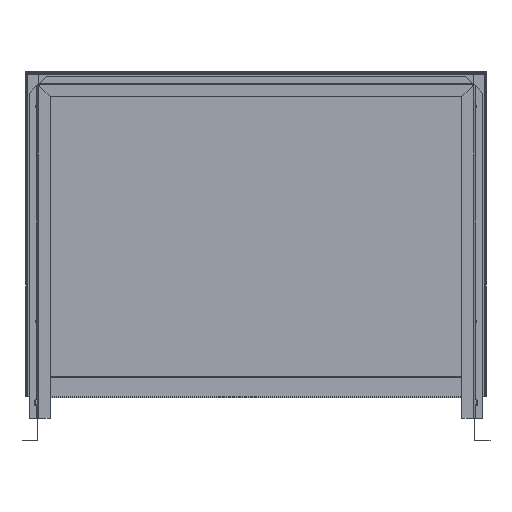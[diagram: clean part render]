
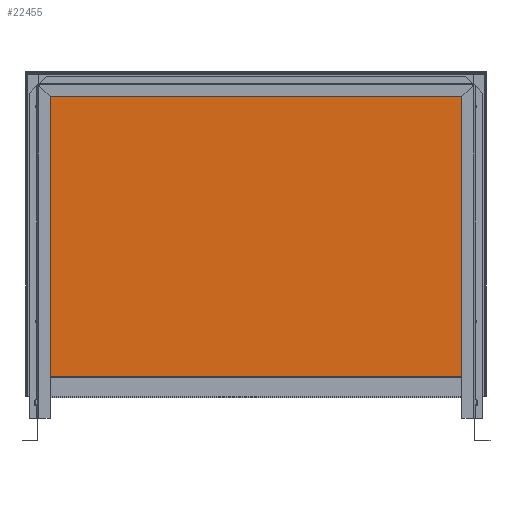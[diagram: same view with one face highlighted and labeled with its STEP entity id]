
A CAD part, front view. The second image highlights one B-rep face of the part: STEP entity #22455.
In plain terms, the highlighted planar face has unit normal (0, -1, 0).
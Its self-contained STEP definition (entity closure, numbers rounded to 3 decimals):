
#16622=CARTESIAN_POINT('',(422.271,0.8,647.2));
#16623=VERTEX_POINT('',#16622);
#16630=CARTESIAN_POINT('',(400.,0.8,624.929));
#16631=VERTEX_POINT('',#16630);
#16632=CARTESIAN_POINT('',(422.271,0.8,647.2));
#16633=DIRECTION('',(-0.707,0.,-0.707));
#16634=VECTOR('',#16633,31.496);
#16635=LINE('',#16632,#16634);
#16636=EDGE_CURVE('',#16623,#16631,#16635,.T.);
#16687=CARTESIAN_POINT('',(400.,0.8,81.8));
#16688=VERTEX_POINT('',#16687);
#16821=CARTESIAN_POINT('',(400.,0.8,81.8));
#16822=DIRECTION('',(-0.,0.,1.));
#16823=VECTOR('',#16822,543.129);
#16824=LINE('',#16821,#16823);
#16825=EDGE_CURVE('',#16688,#16631,#16824,.T.);
#17457=CARTESIAN_POINT('',(399.929,0.8,625.));
#17458=VERTEX_POINT('',#17457);
#17465=CARTESIAN_POINT('',(422.129,0.8,647.2));
#17466=VERTEX_POINT('',#17465);
#17467=CARTESIAN_POINT('',(399.929,0.8,625.));
#17468=DIRECTION('',(0.707,-0.,0.707));
#17469=VECTOR('',#17468,31.396);
#17470=LINE('',#17467,#17469);
#17471=EDGE_CURVE('',#17458,#17466,#17470,.T.);
#18735=CARTESIAN_POINT('',(-422.129,0.8,647.2));
#18736=VERTEX_POINT('',#18735);
#19815=CARTESIAN_POINT('',(-399.929,0.8,625.));
#19816=VERTEX_POINT('',#19815);
#19823=CARTESIAN_POINT('',(399.929,0.8,625.));
#19824=DIRECTION('',(-1.,0.,0.));
#19825=VECTOR('',#19824,799.859);
#19826=LINE('',#19823,#19825);
#19827=EDGE_CURVE('',#17458,#19816,#19826,.T.);
#19858=CARTESIAN_POINT('',(-422.129,0.8,647.2));
#19859=DIRECTION('',(0.707,0.,-0.707));
#19860=VECTOR('',#19859,31.396);
#19861=LINE('',#19858,#19860);
#19862=EDGE_CURVE('',#18736,#19816,#19861,.T.);
#22285=CARTESIAN_POINT('',(-400.,0.8,624.929));
#22286=VERTEX_POINT('',#22285);
#22293=CARTESIAN_POINT('',(-422.271,0.8,647.2));
#22294=VERTEX_POINT('',#22293);
#22295=CARTESIAN_POINT('',(-400.,0.8,624.929));
#22296=DIRECTION('',(-0.707,-0.,0.707));
#22297=VECTOR('',#22296,31.496);
#22298=LINE('',#22295,#22297);
#22299=EDGE_CURVE('',#22286,#22294,#22298,.T.);
#22316=CARTESIAN_POINT('',(-400.,0.8,81.8));
#22317=VERTEX_POINT('',#22316);
#22384=CARTESIAN_POINT('',(-400.,0.8,624.929));
#22385=DIRECTION('',(0.,0.,-1.));
#22386=VECTOR('',#22385,543.129);
#22387=LINE('',#22384,#22386);
#22388=EDGE_CURVE('',#22286,#22317,#22387,.T.);
#22423=CARTESIAN_POINT('',(0.,0.8,0.));
#22424=DIRECTION('',(0.,1.,0.));
#22425=DIRECTION('',(-1.,0.,0.));
#22426=AXIS2_PLACEMENT_3D('',#22423,#22424,#22425);
#22427=PLANE('',#22426);
#22428=CARTESIAN_POINT('',(400.,0.8,81.8));
#22429=DIRECTION('',(-1.,0.,0.));
#22430=VECTOR('',#22429,800.);
#22431=LINE('',#22428,#22430);
#22432=EDGE_CURVE('',#16688,#22317,#22431,.T.);
#22433=ORIENTED_EDGE('',*,*,#22432,.F.);
#22434=ORIENTED_EDGE('',*,*,#16825,.T.);
#22435=ORIENTED_EDGE('',*,*,#16636,.F.);
#22436=CARTESIAN_POINT('',(422.129,0.8,647.2));
#22437=DIRECTION('',(1.,0.,-0.));
#22438=VECTOR('',#22437,0.141);
#22439=LINE('',#22436,#22438);
#22440=EDGE_CURVE('',#17466,#16623,#22439,.T.);
#22441=ORIENTED_EDGE('',*,*,#22440,.F.);
#22442=ORIENTED_EDGE('',*,*,#17471,.F.);
#22443=ORIENTED_EDGE('',*,*,#19827,.T.);
#22444=ORIENTED_EDGE('',*,*,#19862,.F.);
#22445=CARTESIAN_POINT('',(-422.271,0.8,647.2));
#22446=DIRECTION('',(1.,0.,-0.));
#22447=VECTOR('',#22446,0.141);
#22448=LINE('',#22445,#22447);
#22449=EDGE_CURVE('',#22294,#18736,#22448,.T.);
#22450=ORIENTED_EDGE('',*,*,#22449,.F.);
#22451=ORIENTED_EDGE('',*,*,#22299,.F.);
#22452=ORIENTED_EDGE('',*,*,#22388,.T.);
#22453=EDGE_LOOP('',(#22433,#22434,#22435,#22441,#22442,#22443,#22444,#22450,#22451,#22452));
#22454=FACE_BOUND('',#22453,.T.);
#22455=ADVANCED_FACE('',(#22454),#22427,.F.);
